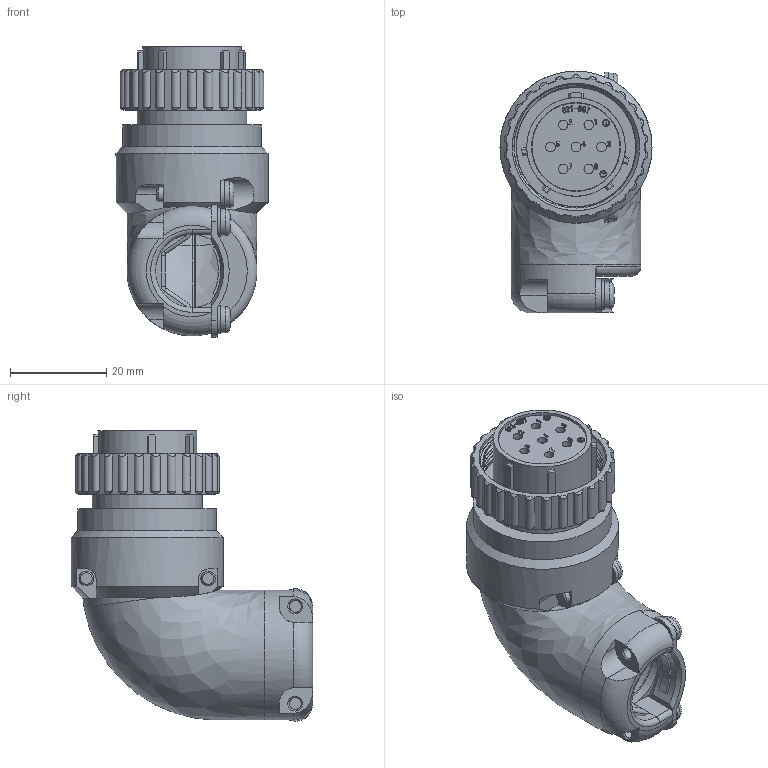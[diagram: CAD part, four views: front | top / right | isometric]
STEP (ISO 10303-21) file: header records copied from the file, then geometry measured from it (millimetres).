
FILE_DESCRIPTION (( 'STEP AP203' ), '1' );
FILE_NAME ('JMLP2107FM-D.STEP', '2021-07-07T04:00:34', ( '' ), ( '' ), 'SwSTEP 2.0', 'SolidWorks 2018', '' );
FILE_SCHEMA (( 'CONFIG_CONTROL_DESIGN' ));
Length unit declared in the file: millimetre
Products named in the file (1): JMLP2107FM-D
Bounding box: 31.6 x 50.2 x 60.33 mm (x, y, z)
Volume: 21933.9 mm3; surface area: 17383.9 mm2
Topology: 1 solids, 1 shells, 942 faces, 2545 edges, 1670 vertices
Faces by surface type: plane 416, bspline 270, cylinder 183, cone 54, torus 19
Full cylindrical faces by diameter (mm): 1.2 x3, 1.4 x3, 1.7 x7, 2 x7, 2.4 x7, 2.5 x2, 3 x2, 5.5 x4, 15.2 x1, 18.1 x1, 18.3 x1, 18.5 x1, 20.1 x1, 20.5 x1, 22.7 x1, 22.8 x1, 24.8 x1, 26.1 x1, 26.2 x1, 26.5 x1, 27 x1, 28.5 x1, 28.8 x1, 31.6 x1
Entity records: 42960 total; most frequent: CARTESIAN_POINT 21800, ORIENTED_EDGE 4868, DIRECTION 3414, EDGE_CURVE 2434, VERTEX_POINT 1638, VECTOR 1178, LINE 1178, AXIS2_PLACEMENT_3D 1118
